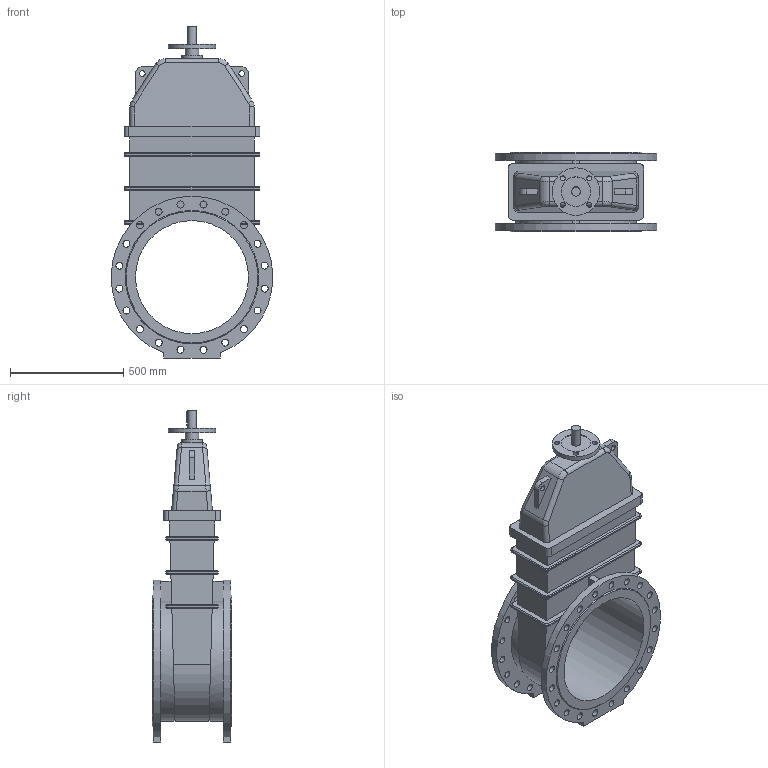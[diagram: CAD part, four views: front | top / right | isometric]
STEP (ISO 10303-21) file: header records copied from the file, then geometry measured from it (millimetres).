
FILE_DESCRIPTION(('STEP AP203'), '1');
FILE_NAME('Çàäâèæêà 47GVA DN500 PN16 áåç èñïîëíèò. ìåõ.', '', ('UNSPECIFIED'), ('UNSPECIFIED'), 'ASCON STEP Converter 1.6', 'ASCON Math Kernel', '');
FILE_SCHEMA(('CONFIG_CONTROL_DESIGN'));
Length unit declared in the file: millimetre
Bounding box: 714.99 x 350 x 1467.5 mm (x, y, z)
Volume: 95871610.6 mm3; surface area: 3448154.6 mm2
Topology: 1 solids, 1 shells, 259 faces, 642 edges, 406 vertices
Faces by surface type: cylinder 127, plane 98, bspline 32, cone 2
Full cylindrical faces by diameter (mm): 22 x4, 25 x2, 31 x40, 40 x1, 60 x1, 90 x1, 130 x1, 210 x1, 500 x1
Entity records: 12553 total; most frequent: CARTESIAN_POINT 4511, ORIENTED_EDGE 1176, DIRECTION 1156, EDGE_CURVE 588, AXIS2_PLACEMENT_3D 434, EDGE_LOOP 428, VERTEX_POINT 406, FACE_BOUND 320
